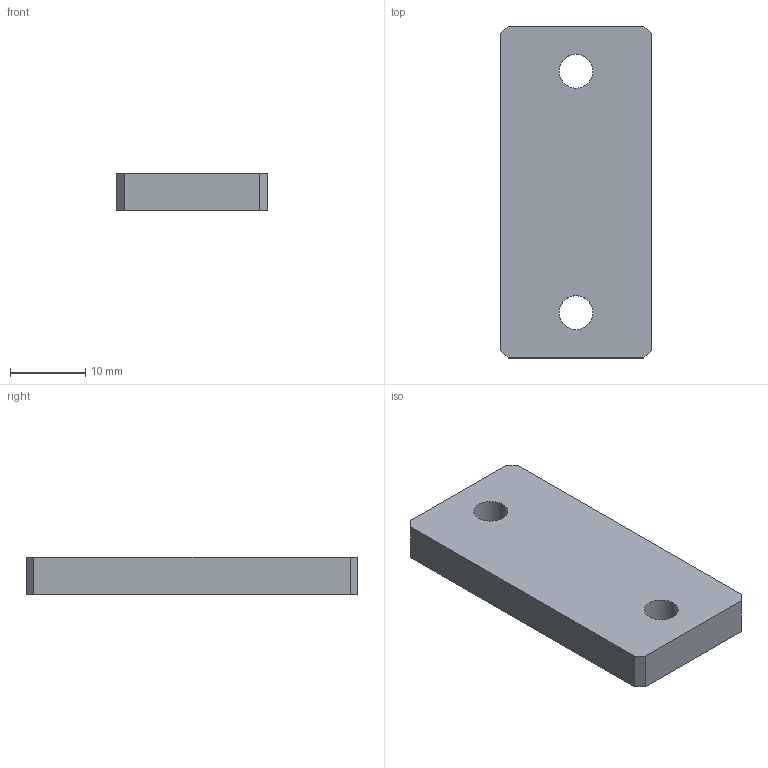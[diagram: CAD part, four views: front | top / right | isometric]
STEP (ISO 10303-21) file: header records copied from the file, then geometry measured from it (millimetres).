
FILE_DESCRIPTION (( 'STEP AP203' ), '1' );
FILE_NAME ('09_riser_bridge.step', '2026-10-22T14:08:10', ( '' ), ( '' ), 'SwSTEP 2.0', 'SolidWorks 2025', '' );
FILE_SCHEMA (( 'CONFIG_CONTROL_DESIGN' ));
Length unit declared in the file: millimetre
Products named in the file (1): 09_riser_bridge
Bounding box: 20 x 44 x 5 mm (x, y, z)
Volume: 4231 mm3; surface area: 2462 mm2
Topology: 1 solids, 1 shells, 14 faces, 36 edges, 24 vertices
Faces by surface type: plane 10, cylinder 4
Entity records: 513 total; most frequent: CARTESIAN_POINT 75, DIRECTION 74, ORIENTED_EDGE 72, EDGE_CURVE 36, LINE 28, VECTOR 28, VERTEX_POINT 24, AXIS2_PLACEMENT_3D 23
